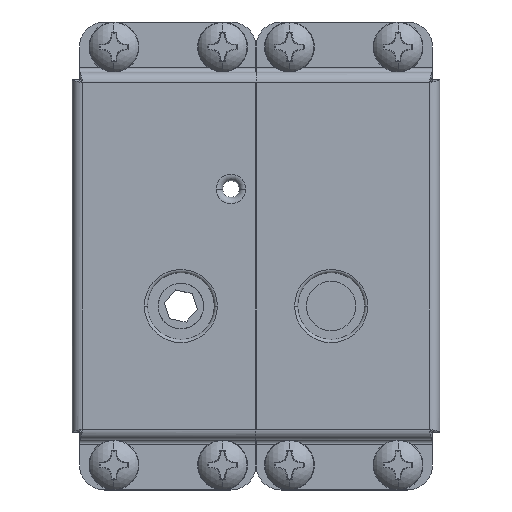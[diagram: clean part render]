
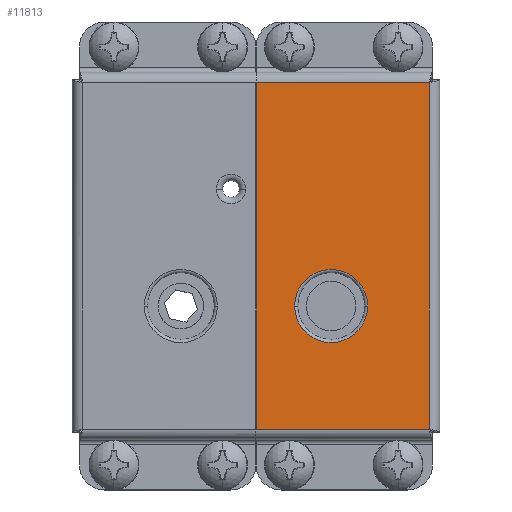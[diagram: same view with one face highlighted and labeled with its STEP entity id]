
A CAD part, top view. The second image highlights one B-rep face of the part: STEP entity #11813.
In plain terms, the highlighted planar face has unit normal (0, 0, 1).
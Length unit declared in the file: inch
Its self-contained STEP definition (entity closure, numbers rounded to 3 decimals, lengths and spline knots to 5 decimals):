
#5060 = CARTESIAN_POINT ( 'NONE',  ( -0.1255, -0.375, 0.2 ) ) ;
#5109 = DIRECTION ( 'NONE',  ( -1., 0., 0. ) ) ;
#5112 = AXIS2_PLACEMENT_3D ( 'NONE', #5060, #5119, #5109 ) ;
#5113 = CARTESIAN_POINT ( 'NONE',  ( -0.3985, -0.375, 0.2 ) ) ;
#5118 = CIRCLE ( 'NONE', #5112, 0.273 ) ;
#5119 = DIRECTION ( 'NONE',  ( 0., 0., -1. ) ) ;
#5145 = CARTESIAN_POINT ( 'NONE',  ( 0.1475, -0.375, 0.2 ) ) ;
#5554 = CARTESIAN_POINT ( 'NONE',  ( 0.60845, 1.29595, 0.2 ) ) ;
#5557 = DIRECTION ( 'NONE',  ( 0., -1., 0. ) ) ;
#5558 = VECTOR ( 'NONE', #5557, 39.37008 ) ;
#5561 = CARTESIAN_POINT ( 'NONE',  ( -0.6875, 1.375, 0.2 ) ) ;
#5574 = LINE ( 'NONE', #5561, #5558 ) ;
#5584 = CARTESIAN_POINT ( 'NONE',  ( 0.60845, -1.29595, 0.2 ) ) ;
#5586 = FACE_OUTER_BOUND ( 'NONE', #11819, .T. ) ;
#5587 = CARTESIAN_POINT ( 'NONE',  ( -0.6875, 1.375, 0.2 ) ) ;
#5588 = CARTESIAN_POINT ( 'NONE',  ( 0.63263, 1.29595, 0.2 ) ) ;
#5593 = DIRECTION ( 'NONE',  ( 0., 1., 0. ) ) ;
#5594 = VECTOR ( 'NONE', #5593, 39.37008 ) ;
#5595 = FACE_BOUND ( 'NONE', #11808, .T. ) ;
#5598 = CIRCLE ( 'NONE', #5627, 0.273 ) ;
#5599 = LINE ( 'NONE', #5588, #5636 ) ;
#5600 = CARTESIAN_POINT ( 'NONE',  ( 0.60845, -1.32013, 0.2 ) ) ;
#5604 = DIRECTION ( 'NONE',  ( 1., 0., 0. ) ) ;
#5605 = VECTOR ( 'NONE', #5604, 39.37008 ) ;
#5606 = CARTESIAN_POINT ( 'NONE',  ( -0.6875, -1.29595, 0.2 ) ) ;
#5608 = AXIS2_PLACEMENT_3D ( 'NONE', #5587, #5630, #5629 ) ;
#5610 = LINE ( 'NONE', #5600, #5594 ) ;
#5612 = LINE ( 'NONE', #5606, #5605 ) ;
#5615 = CARTESIAN_POINT ( 'NONE',  ( -0.6875, -1.29595, 0.2 ) ) ;
#5624 = DIRECTION ( 'NONE',  ( -1., 0., 0. ) ) ;
#5625 = DIRECTION ( 'NONE',  ( 0., 0., -1. ) ) ;
#5626 = CARTESIAN_POINT ( 'NONE',  ( -0.1255, -0.375, 0.2 ) ) ;
#5627 = AXIS2_PLACEMENT_3D ( 'NONE', #5626, #5625, #5624 ) ;
#5629 = DIRECTION ( 'NONE',  ( -1., 0., 0. ) ) ;
#5630 = DIRECTION ( 'NONE',  ( 0., 0., -1. ) ) ;
#5631 = CARTESIAN_POINT ( 'NONE',  ( -0.6875, 1.29595, 0.2 ) ) ;
#5634 = PLANE ( 'NONE',  #5608 ) ;
#5635 = DIRECTION ( 'NONE',  ( -1., 0., 0. ) ) ;
#5636 = VECTOR ( 'NONE', #5635, 39.37008 ) ;
#11555 = EDGE_CURVE ( 'NONE', #11556, #11570, #5118, .T. ) ;
#11556 = VERTEX_POINT ( 'NONE', #5113 ) ;
#11570 = VERTEX_POINT ( 'NONE', #5145 ) ;
#11792 = ORIENTED_EDGE ( 'NONE', *, *, #11807, .T. ) ;
#11794 = VERTEX_POINT ( 'NONE', #5554 ) ;
#11795 = VERTEX_POINT ( 'NONE', #5615 ) ;
#11796 = ORIENTED_EDGE ( 'NONE', *, *, #11812, .T. ) ;
#11797 = EDGE_CURVE ( 'NONE', #11820, #11795, #5574, .T. ) ;
#11799 = ORIENTED_EDGE ( 'NONE', *, *, #11797, .T. ) ;
#11800 = EDGE_CURVE ( 'NONE', #11795, #11821, #5612, .T. ) ;
#11807 = EDGE_CURVE ( 'NONE', #11821, #11794, #5610, .T. ) ;
#11808 = EDGE_LOOP ( 'NONE', ( #11816, #11818 ) ) ;
#11812 = EDGE_CURVE ( 'NONE', #11794, #11820, #5599, .T. ) ;
#11813 = ADVANCED_FACE ( 'NONE', ( #5595, #5586 ), #5634, .F. ) ;
#11814 = EDGE_CURVE ( 'NONE', #11570, #11556, #5598, .T. ) ;
#11816 = ORIENTED_EDGE ( 'NONE', *, *, #11555, .T. ) ;
#11817 = ORIENTED_EDGE ( 'NONE', *, *, #11800, .T. ) ;
#11818 = ORIENTED_EDGE ( 'NONE', *, *, #11814, .T. ) ;
#11819 = EDGE_LOOP ( 'NONE', ( #11792, #11796, #11799, #11817 ) ) ;
#11820 = VERTEX_POINT ( 'NONE', #5631 ) ;
#11821 = VERTEX_POINT ( 'NONE', #5584 ) ;
